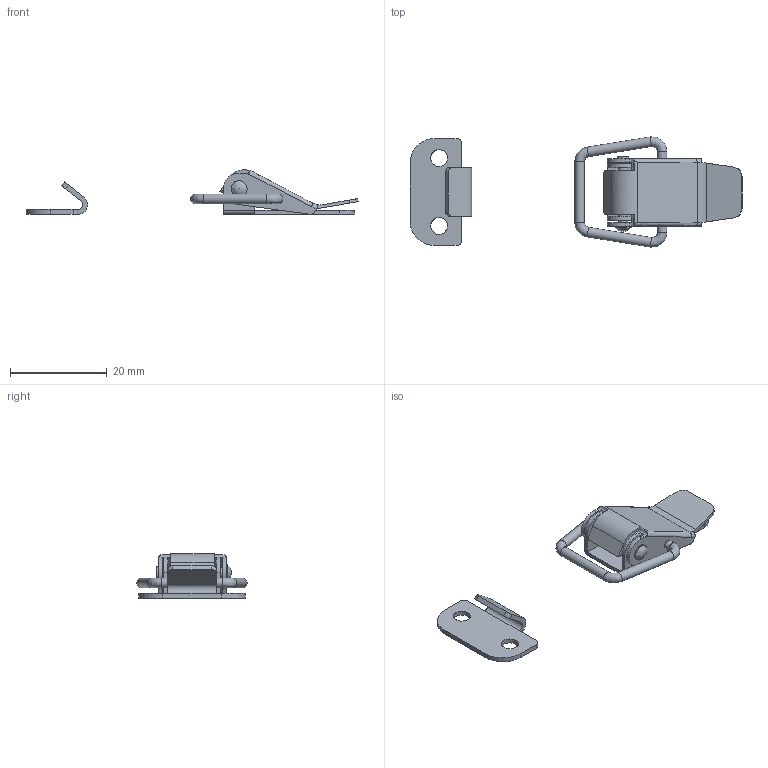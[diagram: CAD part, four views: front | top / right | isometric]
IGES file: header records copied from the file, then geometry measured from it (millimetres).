
Global section: file name: DR_C-M1-1; native system: Autodesk Inventor 2015; preprocessor: unknown; author: Administrator; date: 20170906.102635; units: millimetre
Bounding box: 68.47 x 22.72 x 9.18 mm (x, y, z)
Volume: 1229.2 mm3; surface area: 3132 mm2
Topology: 4 solids, 4 shells, 105 faces, 277 edges, 181 vertices
Faces by surface type: bspline 105
